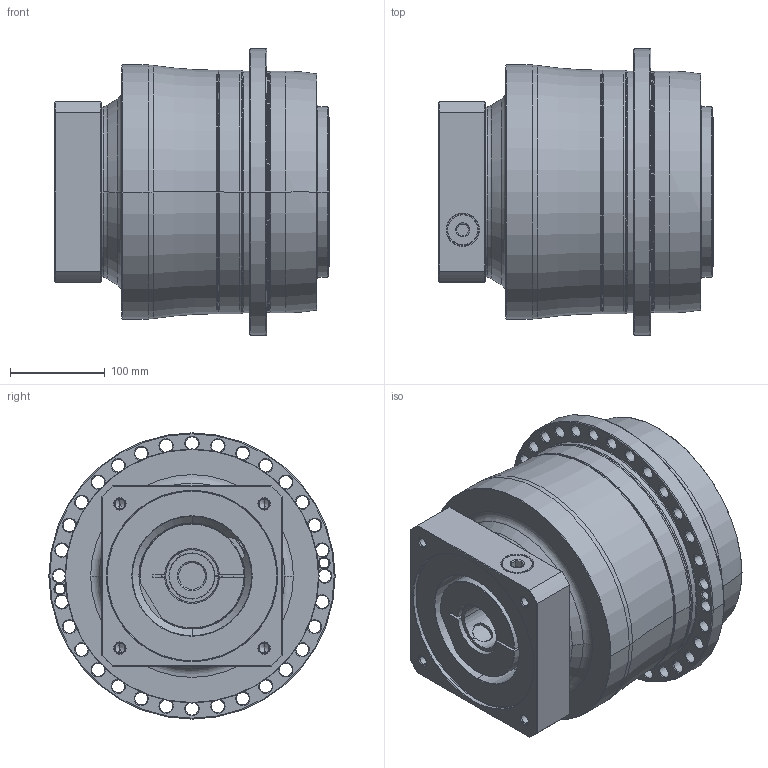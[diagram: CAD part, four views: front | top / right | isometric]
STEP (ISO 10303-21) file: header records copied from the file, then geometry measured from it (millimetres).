
FILE_DESCRIPTION((''),'2;1');
FILE_NAME('AP255_2ST_48-P0409B10201_ASM','2018-05-30T',('d01226'),(''),'PRO/ENGINEER BY PARAMETRIC TECHNOLOGY CORPORATION, 2008410','PRO/ENGINEER BY PARAMETRIC TECHNOLOGY CORPORATION, 2008410','');
FILE_SCHEMA(('CONFIG_CONTROL_DESIGN'));
Length unit declared in the file: millimetre
Products named in the file (9): P0278701003; P0359701103; P1317710401; P0503B00016; P0912654001; P1211700001; P0409B10201; 21711426021; AP255_2ST_48-P0409B10201_ASM
Assembly tree (8 placements, depth 2):
  AP255_2ST_48-P0409B10201_ASM
    P0278701003
    P0359701103
    P1317710401
    P0503B00016
    P0912654001
    P1211700001
    P0409B10201
    21711426021
Bounding box: 290 x 302 x 302 mm (x, y, z)
Volume: 12028061.6 mm3; surface area: 835067 mm2
Topology: 9 solids, 32 shells, 685 faces, 1643 edges, 999 vertices
Faces by surface type: cylinder 275, cone 220, plane 100, torus 74, bspline 16
Entity records: 25233 total; most frequent: CARTESIAN_POINT 8470, DIRECTION 3863, ORIENTED_EDGE 3172, AXIS2_PLACEMENT_3D 1652, EDGE_CURVE 1633, VERTEX_POINT 999, CIRCLE 954, EDGE_LOOP 826
